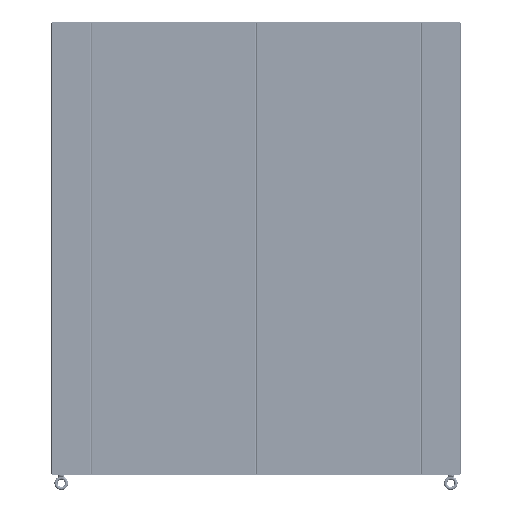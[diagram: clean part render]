
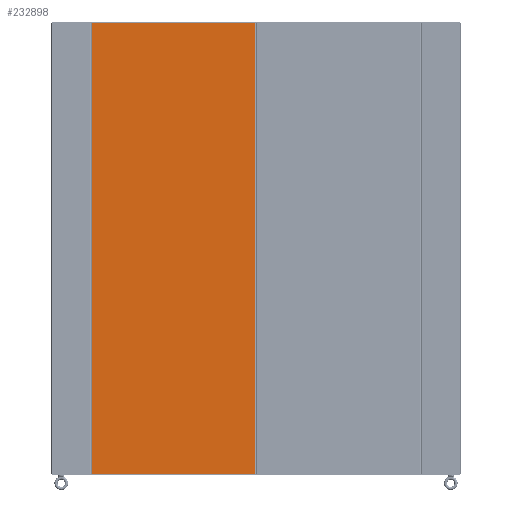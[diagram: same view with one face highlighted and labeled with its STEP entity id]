
A CAD part, left-side view. The second image highlights one B-rep face of the part: STEP entity #232898.
In plain terms, the highlighted planar face has unit normal (-1, 0, 0) as drawn and (0, 0, -1) by its records, which use the part's own axes.
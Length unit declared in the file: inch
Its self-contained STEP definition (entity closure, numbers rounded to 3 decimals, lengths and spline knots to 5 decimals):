
#231919=DIRECTION('',(0.,-1.,0.));
#231920=VECTOR('',#231919,85.792);
#231921=CARTESIAN_POINT('',(-15.4985,42.896,-0.104));
#231922=LINE('',#231921,#231920);
#232109=DIRECTION('',(0.,1.,0.));
#232110=VECTOR('',#232109,85.792);
#232111=CARTESIAN_POINT('',(15.4985,-42.896,-0.104));
#232112=LINE('',#232111,#232110);
#232270=DIRECTION('',(-1.,0.,0.));
#232271=VECTOR('',#232270,30.997);
#232272=CARTESIAN_POINT('',(15.4985,42.896,-0.104));
#232273=LINE('',#232272,#232271);
#232277=DIRECTION('',(1.,0.,0.));
#232278=VECTOR('',#232277,30.997);
#232279=CARTESIAN_POINT('',(-15.4985,-42.896,-0.104));
#232280=LINE('',#232279,#232278);
#232288=CARTESIAN_POINT('',(-15.4985,-42.896,-0.104));
#232289=VERTEX_POINT('',#232288);
#232290=CARTESIAN_POINT('',(-15.4985,42.896,-0.104));
#232291=VERTEX_POINT('',#232290);
#232304=CARTESIAN_POINT('',(15.4985,42.896,-0.104));
#232305=VERTEX_POINT('',#232304);
#232306=CARTESIAN_POINT('',(15.4985,-42.896,-0.104));
#232307=VERTEX_POINT('',#232306);
#232887=CARTESIAN_POINT('',(0.,0.,-0.104));
#232888=DIRECTION('',(0.,0.,1.));
#232889=DIRECTION('',(1.,0.,0.));
#232890=AXIS2_PLACEMENT_3D('',#232887,#232888,#232889);
#232891=PLANE('',#232890);
#232892=ORIENTED_EDGE('',*,*,#232379,.T.);
#232893=ORIENTED_EDGE('',*,*,#232424,.T.);
#232894=ORIENTED_EDGE('',*,*,#232638,.T.);
#232895=ORIENTED_EDGE('',*,*,#232682,.T.);
#232896=EDGE_LOOP('',(#232892,#232893,#232894,#232895));
#232897=FACE_OUTER_BOUND('',#232896,.F.);
#232379=EDGE_CURVE('',#232305,#232291,#232273,.T.);
#232424=EDGE_CURVE('',#232291,#232289,#231922,.T.);
#232638=EDGE_CURVE('',#232289,#232307,#232280,.T.);
#232682=EDGE_CURVE('',#232307,#232305,#232112,.T.);
#232898=ADVANCED_FACE('',(#232897),#232891,.F.);
